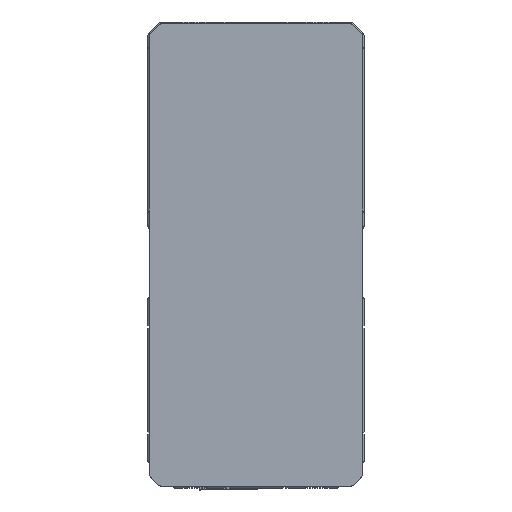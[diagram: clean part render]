
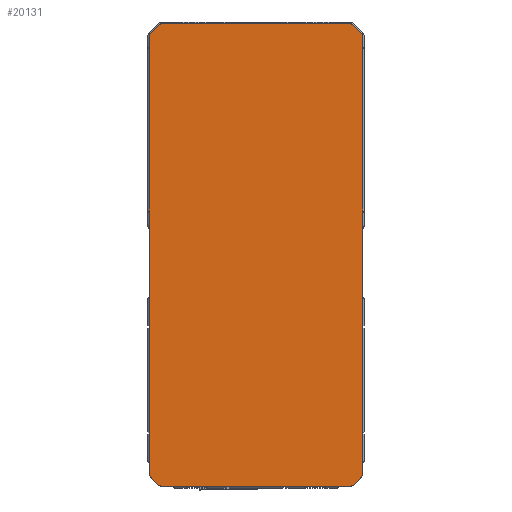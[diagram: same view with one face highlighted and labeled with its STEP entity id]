
A CAD part, top view. The second image highlights one B-rep face of the part: STEP entity #20131.
In plain terms, the highlighted planar face has unit normal (0, 0, 1).
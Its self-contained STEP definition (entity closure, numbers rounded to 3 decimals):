
#437 = EDGE_CURVE ( 'NONE', #24194, #14732, #15985, .T. ) ;
#525 = CARTESIAN_POINT ( 'NONE',  ( -31.561, 29.139, 344. ) ) ;
#927 = DIRECTION ( 'NONE',  ( 0., 1., 0. ) ) ;
#946 = EDGE_CURVE ( 'NONE', #38739, #18028, #11110, .T. ) ;
#1005 = CARTESIAN_POINT ( 'NONE',  ( -32., 28.079, 344. ) ) ;
#1323 = VERTEX_POINT ( 'NONE', #1005 ) ;
#1714 = AXIS2_PLACEMENT_3D ( 'NONE', #7191, #29004, #10296 ) ;
#1862 = LINE ( 'NONE', #25797, #25723 ) ;
#1954 = PLANE ( 'NONE',  #3248 ) ;
#2115 = CIRCLE ( 'NONE', #1714, 1.5 ) ;
#2735 = ORIENTED_EDGE ( 'NONE', *, *, #437, .T. ) ;
#3016 = EDGE_CURVE ( 'NONE', #9124, #31362, #1862, .T. ) ;
#3074 = AXIS2_PLACEMENT_3D ( 'NONE', #8098, #29912, #11211 ) ;
#3080 = ORIENTED_EDGE ( 'NONE', *, *, #34393, .T. ) ;
#3248 = AXIS2_PLACEMENT_3D ( 'NONE', #23714, #5099, #26880 ) ;
#3526 = CARTESIAN_POINT ( 'NONE',  ( 29.139, 31.561, 344. ) ) ;
#3576 = CARTESIAN_POINT ( 'NONE',  ( -30.5, 28.079, 344. ) ) ;
#3593 = ORIENTED_EDGE ( 'NONE', *, *, #946, .T. ) ;
#4334 = DIRECTION ( 'NONE',  ( 0., 0., 1. ) ) ;
#4634 = CARTESIAN_POINT ( 'NONE',  ( 28.079, 32., 344. ) ) ;
#5099 = DIRECTION ( 'NONE',  ( 0., 0., -1. ) ) ;
#5145 = CIRCLE ( 'NONE', #6307, 1.5 ) ;
#5227 = VECTOR ( 'NONE', #28616, 1000. ) ;
#5320 = AXIS2_PLACEMENT_3D ( 'NONE', #3576, #25381, #6737 ) ;
#5968 = VERTEX_POINT ( 'NONE', #7308 ) ;
#6061 = CARTESIAN_POINT ( 'NONE',  ( 30.5, 28.079, 344. ) ) ;
#6307 = AXIS2_PLACEMENT_3D ( 'NONE', #9870, #31680, #12980 ) ;
#6548 = CARTESIAN_POINT ( 'NONE',  ( -29.139, 31.561, 344. ) ) ;
#6737 = DIRECTION ( 'NONE',  ( 1., 0., 0. ) ) ;
#6819 = CARTESIAN_POINT ( 'NONE',  ( 29.139, -106.561, 344. ) ) ;
#7191 = CARTESIAN_POINT ( 'NONE',  ( 28.079, -105.5, 344. ) ) ;
#7308 = CARTESIAN_POINT ( 'NONE',  ( -28.079, 32., 344. ) ) ;
#7739 = VERTEX_POINT ( 'NONE', #15242 ) ;
#8098 = CARTESIAN_POINT ( 'NONE',  ( 30.5, -103.079, 344. ) ) ;
#8355 = CARTESIAN_POINT ( 'NONE',  ( -28.079, 32., 344. ) ) ;
#8549 = EDGE_CURVE ( 'NONE', #31362, #1323, #28069, .T. ) ;
#9124 = VERTEX_POINT ( 'NONE', #6548 ) ;
#9195 = DIRECTION ( 'NONE',  ( -1., 0., 0. ) ) ;
#9870 = CARTESIAN_POINT ( 'NONE',  ( -28.079, 30.5, 344. ) ) ;
#10296 = DIRECTION ( 'NONE',  ( -1., 0., 0. ) ) ;
#10811 = LINE ( 'NONE', #24423, #35683 ) ;
#11110 = LINE ( 'NONE', #38864, #28708 ) ;
#11186 = ORIENTED_EDGE ( 'NONE', *, *, #27566, .T. ) ;
#11188 = EDGE_CURVE ( 'NONE', #18028, #39150, #2115, .T. ) ;
#11198 = ORIENTED_EDGE ( 'NONE', *, *, #14266, .T. ) ;
#11211 = DIRECTION ( 'NONE',  ( 1., 0., 0. ) ) ;
#11490 = DIRECTION ( 'NONE',  ( 0., 0., 1. ) ) ;
#12980 = DIRECTION ( 'NONE',  ( -1., 0., 0. ) ) ;
#13957 = DIRECTION ( 'NONE',  ( 0., 0., 1. ) ) ;
#14266 = EDGE_CURVE ( 'NONE', #14732, #22218, #37413, .T. ) ;
#14732 = VERTEX_POINT ( 'NONE', #31164 ) ;
#14889 = LINE ( 'NONE', #17140, #31493 ) ;
#15070 = ORIENTED_EDGE ( 'NONE', *, *, #22981, .T. ) ;
#15095 = EDGE_LOOP ( 'NONE', ( #20981, #30406, #39659, #11186, #15960, #36997, #31075, #3593, #17843, #28401, #15070, #17586, #2735, #11198, #37183, #3080 ) ) ;
#15242 = CARTESIAN_POINT ( 'NONE',  ( -29.139, -106.561, 344. ) ) ;
#15960 = ORIENTED_EDGE ( 'NONE', *, *, #35176, .T. ) ;
#15985 = CIRCLE ( 'NONE', #28267, 1.5 ) ;
#16142 = CARTESIAN_POINT ( 'NONE',  ( 29.139, 31.561, 344. ) ) ;
#17140 = CARTESIAN_POINT ( 'NONE',  ( -32., 28.079, 344. ) ) ;
#17284 = EDGE_CURVE ( 'NONE', #5968, #9124, #5145, .T. ) ;
#17586 = ORIENTED_EDGE ( 'NONE', *, *, #28545, .T. ) ;
#17843 = ORIENTED_EDGE ( 'NONE', *, *, #11188, .T. ) ;
#18028 = VERTEX_POINT ( 'NONE', #38557 ) ;
#18526 = FACE_OUTER_BOUND ( 'NONE', #15095, .T. ) ;
#18557 = VERTEX_POINT ( 'NONE', #4634 ) ;
#19288 = DIRECTION ( 'NONE',  ( -0.707, 0.707, 0. ) ) ;
#20131 = ADVANCED_FACE ( 'NONE', ( #18526 ), #1954, .F. ) ;
#20192 = DIRECTION ( 'NONE',  ( 1., 0., 0. ) ) ;
#20246 = CARTESIAN_POINT ( 'NONE',  ( -31.561, -104.139, 344. ) ) ;
#20869 = AXIS2_PLACEMENT_3D ( 'NONE', #32663, #13957, #35810 ) ;
#20981 = ORIENTED_EDGE ( 'NONE', *, *, #17284, .T. ) ;
#21709 = CIRCLE ( 'NONE', #3074, 1.5 ) ;
#22120 = CARTESIAN_POINT ( 'NONE',  ( 29.139, -106.561, 344. ) ) ;
#22205 = EDGE_CURVE ( 'NONE', #39150, #34501, #37376, .T. ) ;
#22218 = VERTEX_POINT ( 'NONE', #16142 ) ;
#22675 = CARTESIAN_POINT ( 'NONE',  ( 32., 28.079, 344. ) ) ;
#22965 = CARTESIAN_POINT ( 'NONE',  ( -30.5, -103.079, 344. ) ) ;
#22981 = EDGE_CURVE ( 'NONE', #34501, #23730, #21709, .T. ) ;
#22992 = LINE ( 'NONE', #8355, #38607 ) ;
#23357 = CIRCLE ( 'NONE', #24287, 1.5 ) ;
#23435 = DIRECTION ( 'NONE',  ( 0., -1., 0. ) ) ;
#23714 = CARTESIAN_POINT ( 'NONE',  ( -28.079, 30.5, 344. ) ) ;
#23730 = VERTEX_POINT ( 'NONE', #27401 ) ;
#24077 = VERTEX_POINT ( 'NONE', #20246 ) ;
#24194 = VERTEX_POINT ( 'NONE', #27097 ) ;
#24287 = AXIS2_PLACEMENT_3D ( 'NONE', #30198, #11490, #33305 ) ;
#24423 = CARTESIAN_POINT ( 'NONE',  ( -31.561, -104.139, 344. ) ) ;
#25381 = DIRECTION ( 'NONE',  ( 0., 0., 1. ) ) ;
#25551 = LINE ( 'NONE', #22675, #33862 ) ;
#25723 = VECTOR ( 'NONE', #28944, 1000. ) ;
#25797 = CARTESIAN_POINT ( 'NONE',  ( -31.561, 29.139, 344. ) ) ;
#26119 = DIRECTION ( 'NONE',  ( -1., 0., 0. ) ) ;
#26760 = EDGE_CURVE ( 'NONE', #22218, #18557, #38859, .T. ) ;
#26880 = DIRECTION ( 'NONE',  ( -1., 0., 0. ) ) ;
#27097 = CARTESIAN_POINT ( 'NONE',  ( 32., 28.079, 344. ) ) ;
#27401 = CARTESIAN_POINT ( 'NONE',  ( 32., -103.079, 344. ) ) ;
#27566 = EDGE_CURVE ( 'NONE', #1323, #30961, #14889, .T. ) ;
#27569 = DIRECTION ( 'NONE',  ( 0.707, -0.707, 0. ) ) ;
#27868 = DIRECTION ( 'NONE',  ( 0., 0., 1. ) ) ;
#28069 = CIRCLE ( 'NONE', #5320, 1.5 ) ;
#28267 = AXIS2_PLACEMENT_3D ( 'NONE', #6061, #27868, #9195 ) ;
#28401 = ORIENTED_EDGE ( 'NONE', *, *, #22205, .T. ) ;
#28545 = EDGE_CURVE ( 'NONE', #23730, #24194, #25551, .T. ) ;
#28616 = DIRECTION ( 'NONE',  ( 0.707, 0.707, 0. ) ) ;
#28708 = VECTOR ( 'NONE', #20192, 1000. ) ;
#28944 = DIRECTION ( 'NONE',  ( -0.707, -0.707, 0. ) ) ;
#29004 = DIRECTION ( 'NONE',  ( 0., 0., 1. ) ) ;
#29130 = VECTOR ( 'NONE', #19288, 1000. ) ;
#29912 = DIRECTION ( 'NONE',  ( 0., 0., 1. ) ) ;
#30184 = DIRECTION ( 'NONE',  ( -1., 0., 0. ) ) ;
#30198 = CARTESIAN_POINT ( 'NONE',  ( -28.079, -105.5, 344. ) ) ;
#30406 = ORIENTED_EDGE ( 'NONE', *, *, #3016, .T. ) ;
#30842 = CARTESIAN_POINT ( 'NONE',  ( 31.561, -104.139, 344. ) ) ;
#30961 = VERTEX_POINT ( 'NONE', #35555 ) ;
#31075 = ORIENTED_EDGE ( 'NONE', *, *, #35835, .T. ) ;
#31164 = CARTESIAN_POINT ( 'NONE',  ( 31.561, 29.139, 344. ) ) ;
#31362 = VERTEX_POINT ( 'NONE', #525 ) ;
#31493 = VECTOR ( 'NONE', #23435, 1000. ) ;
#31680 = DIRECTION ( 'NONE',  ( 0., 0., 1. ) ) ;
#32185 = CIRCLE ( 'NONE', #39116, 1.5 ) ;
#32663 = CARTESIAN_POINT ( 'NONE',  ( 28.079, 30.5, 344. ) ) ;
#33305 = DIRECTION ( 'NONE',  ( 1., 0., 0. ) ) ;
#33862 = VECTOR ( 'NONE', #927, 1000. ) ;
#34393 = EDGE_CURVE ( 'NONE', #18557, #5968, #22992, .T. ) ;
#34474 = EDGE_CURVE ( 'NONE', #24077, #7739, #10811, .T. ) ;
#34501 = VERTEX_POINT ( 'NONE', #30842 ) ;
#35176 = EDGE_CURVE ( 'NONE', #30961, #24077, #32185, .T. ) ;
#35555 = CARTESIAN_POINT ( 'NONE',  ( -32., -103.079, 344. ) ) ;
#35683 = VECTOR ( 'NONE', #27569, 1000. ) ;
#35810 = DIRECTION ( 'NONE',  ( 1., 0., 0. ) ) ;
#35835 = EDGE_CURVE ( 'NONE', #7739, #38739, #23357, .T. ) ;
#36997 = ORIENTED_EDGE ( 'NONE', *, *, #34474, .T. ) ;
#37183 = ORIENTED_EDGE ( 'NONE', *, *, #26760, .T. ) ;
#37376 = LINE ( 'NONE', #6819, #5227 ) ;
#37413 = LINE ( 'NONE', #3526, #29130 ) ;
#38557 = CARTESIAN_POINT ( 'NONE',  ( 28.079, -107., 344. ) ) ;
#38607 = VECTOR ( 'NONE', #30184, 1000. ) ;
#38624 = CARTESIAN_POINT ( 'NONE',  ( -28.079, -107., 344. ) ) ;
#38739 = VERTEX_POINT ( 'NONE', #38624 ) ;
#38859 = CIRCLE ( 'NONE', #20869, 1.5 ) ;
#38864 = CARTESIAN_POINT ( 'NONE',  ( -28.079, -107., 344. ) ) ;
#39116 = AXIS2_PLACEMENT_3D ( 'NONE', #22965, #4334, #26119 ) ;
#39150 = VERTEX_POINT ( 'NONE', #22120 ) ;
#39659 = ORIENTED_EDGE ( 'NONE', *, *, #8549, .T. ) ;
